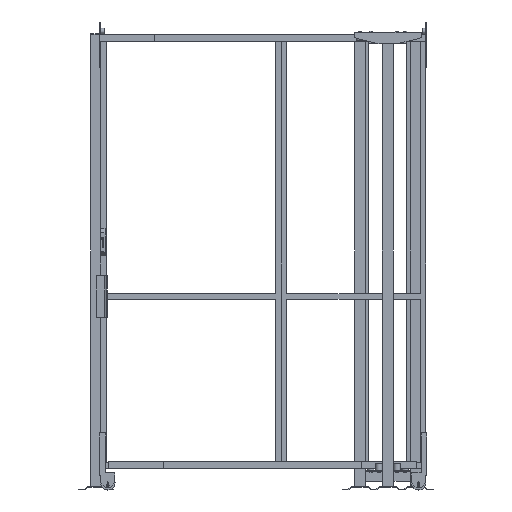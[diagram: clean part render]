
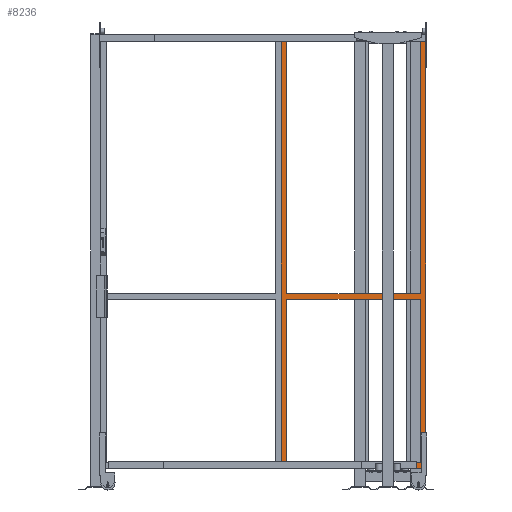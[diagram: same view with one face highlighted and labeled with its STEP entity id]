
A CAD part, front view. The second image highlights one B-rep face of the part: STEP entity #8236.
In plain terms, the highlighted planar face has unit normal (0, -1, 0).
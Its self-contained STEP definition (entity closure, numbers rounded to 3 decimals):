
#912=FACE_BOUND('',#1371,.T.);
#913=FACE_BOUND('',#1372,.T.);
#959=FACE_OUTER_BOUND('',#1370,.T.);
#1370=EDGE_LOOP('',(#5840,#5841,#5842,#5843));
#1371=EDGE_LOOP('',(#5844,#5845,#5846,#5847));
#1372=EDGE_LOOP('',(#5848,#5849,#5850,#5851));
#1823=LINE('',#11486,#2918);
#1829=LINE('',#11498,#2924);
#1830=LINE('',#11501,#2925);
#1833=LINE('',#11508,#2928);
#1834=LINE('',#11510,#2929);
#1835=LINE('',#11512,#2930);
#1836=LINE('',#11513,#2931);
#1837=LINE('',#11515,#2932);
#1838=LINE('',#11517,#2933);
#1839=LINE('',#11518,#2934);
#1840=LINE('',#11520,#2935);
#1841=LINE('',#11521,#2936);
#2918=VECTOR('',#9257,1.);
#2924=VECTOR('',#9265,1.);
#2925=VECTOR('',#9268,1.);
#2928=VECTOR('',#9273,1.);
#2929=VECTOR('',#9274,1.);
#2930=VECTOR('',#9275,1.);
#2931=VECTOR('',#9276,1.);
#2932=VECTOR('',#9277,1.);
#2933=VECTOR('',#9278,1.);
#2934=VECTOR('',#9279,1.);
#2935=VECTOR('',#9280,1.);
#2936=VECTOR('',#9281,1.);
#4012=VERTEX_POINT('',#11482);
#4014=VERTEX_POINT('',#11485);
#4017=VERTEX_POINT('',#11492);
#4019=VERTEX_POINT('',#11496);
#4020=VERTEX_POINT('',#11500);
#4022=VERTEX_POINT('',#11506);
#4023=VERTEX_POINT('',#11507);
#4024=VERTEX_POINT('',#11509);
#4025=VERTEX_POINT('',#11511);
#4026=VERTEX_POINT('',#11514);
#4027=VERTEX_POINT('',#11516);
#4028=VERTEX_POINT('',#11519);
#4763=EDGE_CURVE('',#4012,#4014,#1823,.T.);
#4769=EDGE_CURVE('',#4019,#4017,#1829,.T.);
#4770=EDGE_CURVE('',#4020,#4017,#1830,.T.);
#4773=EDGE_CURVE('',#4022,#4023,#1833,.T.);
#4774=EDGE_CURVE('',#4024,#4023,#1834,.T.);
#4775=EDGE_CURVE('',#4025,#4024,#1835,.T.);
#4776=EDGE_CURVE('',#4022,#4025,#1836,.T.);
#4777=EDGE_CURVE('',#4012,#4026,#1837,.T.);
#4778=EDGE_CURVE('',#4026,#4027,#1838,.T.);
#4779=EDGE_CURVE('',#4027,#4014,#1839,.T.);
#4780=EDGE_CURVE('',#4019,#4028,#1840,.T.);
#4781=EDGE_CURVE('',#4028,#4020,#1841,.T.);
#5840=ORIENTED_EDGE('',*,*,#4773,.T.);
#5841=ORIENTED_EDGE('',*,*,#4774,.F.);
#5842=ORIENTED_EDGE('',*,*,#4775,.F.);
#5843=ORIENTED_EDGE('',*,*,#4776,.F.);
#5844=ORIENTED_EDGE('',*,*,#4777,.T.);
#5845=ORIENTED_EDGE('',*,*,#4778,.T.);
#5846=ORIENTED_EDGE('',*,*,#4779,.T.);
#5847=ORIENTED_EDGE('',*,*,#4763,.F.);
#5848=ORIENTED_EDGE('',*,*,#4769,.F.);
#5849=ORIENTED_EDGE('',*,*,#4780,.T.);
#5850=ORIENTED_EDGE('',*,*,#4781,.T.);
#5851=ORIENTED_EDGE('',*,*,#4770,.T.);
#7865=PLANE('',#8688);
#8236=ADVANCED_FACE('',(#959,#912,#913),#7865,.F.);
#8688=AXIS2_PLACEMENT_3D('',#11505,#9271,#9272);
#9257=DIRECTION('',(1.,0.,0.));
#9265=DIRECTION('',(-1.,0.,0.));
#9268=DIRECTION('',(0.,0.,1.));
#9271=DIRECTION('center_axis',(0.,1.,0.));
#9272=DIRECTION('ref_axis',(0.,0.,1.));
#9273=DIRECTION('',(0.,0.,-1.));
#9274=DIRECTION('',(-1.,0.,0.));
#9275=DIRECTION('',(0.,0.,-1.));
#9276=DIRECTION('',(1.,0.,0.));
#9277=DIRECTION('',(0.,0.,1.));
#9278=DIRECTION('',(1.,0.,0.));
#9279=DIRECTION('',(0.,0.,-1.));
#9280=DIRECTION('',(0.,0.,-1.));
#9281=DIRECTION('',(-1.,0.,0.));
#11482=CARTESIAN_POINT('',(30.,0.,965.));
#11485=CARTESIAN_POINT('',(770.,0.,965.));
#11486=CARTESIAN_POINT('',(400.,0.,965.));
#11492=CARTESIAN_POINT('',(30.,0.,935.));
#11496=CARTESIAN_POINT('',(770.,0.,935.));
#11498=CARTESIAN_POINT('',(400.,0.,935.));
#11500=CARTESIAN_POINT('',(30.,0.,30.));
#11501=CARTESIAN_POINT('',(30.,0.,1200.));
#11505=CARTESIAN_POINT('Origin',(400.,0.,1200.));
#11506=CARTESIAN_POINT('',(0.,0.,2400.));
#11507=CARTESIAN_POINT('',(0.,0.,0.));
#11508=CARTESIAN_POINT('',(0.,0.,1200.));
#11509=CARTESIAN_POINT('',(800.,0.,0.));
#11510=CARTESIAN_POINT('',(400.,0.,0.));
#11511=CARTESIAN_POINT('',(800.,0.,2400.));
#11512=CARTESIAN_POINT('',(800.,0.,1200.));
#11513=CARTESIAN_POINT('',(400.,0.,2400.));
#11514=CARTESIAN_POINT('',(30.,0.,2370.));
#11515=CARTESIAN_POINT('',(30.,0.,1200.));
#11516=CARTESIAN_POINT('',(770.,0.,2370.));
#11517=CARTESIAN_POINT('',(400.,0.,2370.));
#11518=CARTESIAN_POINT('',(770.,0.,1200.));
#11519=CARTESIAN_POINT('',(770.,0.,30.));
#11520=CARTESIAN_POINT('',(770.,0.,1200.));
#11521=CARTESIAN_POINT('',(400.,0.,30.));
